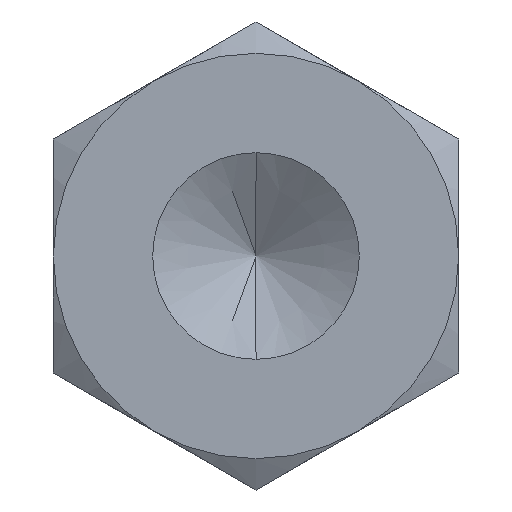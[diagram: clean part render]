
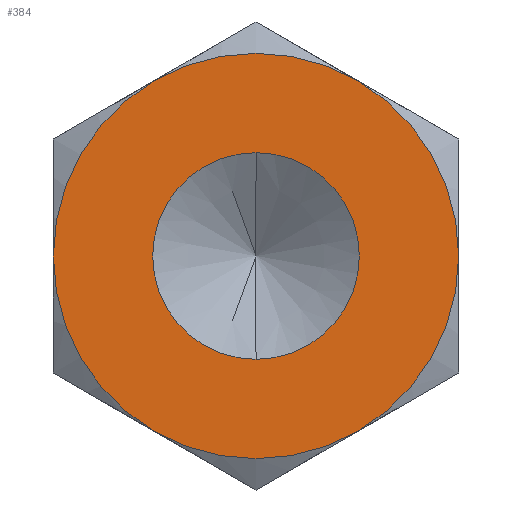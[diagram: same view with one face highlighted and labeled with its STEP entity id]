
A CAD part, front view. The second image highlights one B-rep face of the part: STEP entity #384.
In plain terms, the highlighted planar face has unit normal (0, -1, 0).
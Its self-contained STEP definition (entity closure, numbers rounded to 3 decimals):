
#4 = AXIS2_PLACEMENT_3D ( 'NONE', #733, #727, #716 ) ;
#12 = AXIS2_PLACEMENT_3D ( 'NONE', #196, #92, #117 ) ;
#23 = VERTEX_POINT ( 'NONE', #509 ) ;
#60 = CARTESIAN_POINT ( 'NONE',  ( 0., 0., -5.1 ) ) ;
#68 = ORIENTED_EDGE ( 'NONE', *, *, #197, .F. ) ;
#76 = EDGE_CURVE ( 'NONE', #136, #304, #653, .T. ) ;
#91 = AXIS2_PLACEMENT_3D ( 'NONE', #110, #113, #200 ) ;
#92 = DIRECTION ( 'NONE',  ( 0., 1., 0. ) ) ;
#96 = EDGE_CURVE ( 'NONE', #592, #489, #326, .T. ) ;
#97 = ORIENTED_EDGE ( 'NONE', *, *, #348, .T. ) ;
#99 = CARTESIAN_POINT ( 'NONE',  ( 0., 0., 0. ) ) ;
#104 = DIRECTION ( 'NONE',  ( 0., -1., 0. ) ) ;
#109 = DIRECTION ( 'NONE',  ( 1., 0., 0. ) ) ;
#110 = CARTESIAN_POINT ( 'NONE',  ( 0., 0., 0. ) ) ;
#113 = DIRECTION ( 'NONE',  ( 0., -1., 0. ) ) ;
#114 = PLANE ( 'NONE',  #12 ) ;
#117 = DIRECTION ( 'NONE',  ( 0., 0., 1. ) ) ;
#125 = CARTESIAN_POINT ( 'NONE',  ( 0., 0., 5.1 ) ) ;
#136 = VERTEX_POINT ( 'NONE', #125 ) ;
#144 = AXIS2_PLACEMENT_3D ( 'NONE', #394, #395, #404 ) ;
#160 = CIRCLE ( 'NONE', #593, 10. ) ;
#166 = CIRCLE ( 'NONE', #4, 5.1 ) ;
#172 = EDGE_LOOP ( 'NONE', ( #68, #667 ) ) ;
#189 = EDGE_CURVE ( 'NONE', #489, #23, #702, .T. ) ;
#196 = CARTESIAN_POINT ( 'NONE',  ( 0., 0., 0. ) ) ;
#197 = EDGE_CURVE ( 'NONE', #304, #136, #166, .T. ) ;
#200 = DIRECTION ( 'NONE',  ( 0., 0., 1. ) ) ;
#233 = ORIENTED_EDGE ( 'NONE', *, *, #730, .T. ) ;
#245 = CARTESIAN_POINT ( 'NONE',  ( 10., 0., 0. ) ) ;
#250 = CARTESIAN_POINT ( 'NONE',  ( 5., 0., 8.66 ) ) ;
#251 = CARTESIAN_POINT ( 'NONE',  ( -10., 0., 0. ) ) ;
#288 = CARTESIAN_POINT ( 'NONE',  ( 0., 0., 0. ) ) ;
#292 = DIRECTION ( 'NONE',  ( 0., -1., 0. ) ) ;
#293 = DIRECTION ( 'NONE',  ( 0., 0., 1. ) ) ;
#304 = VERTEX_POINT ( 'NONE', #60 ) ;
#316 = FACE_BOUND ( 'NONE', #172, .T. ) ;
#326 = CIRCLE ( 'NONE', #144, 10. ) ;
#329 = FACE_OUTER_BOUND ( 'NONE', #645, .T. ) ;
#331 = CIRCLE ( 'NONE', #784, 10. ) ;
#335 = EDGE_CURVE ( 'NONE', #499, #505, #160, .T. ) ;
#338 = CIRCLE ( 'NONE', #796, 10. ) ;
#347 = CIRCLE ( 'NONE', #91, 10. ) ;
#348 = EDGE_CURVE ( 'NONE', #505, #592, #347, .T. ) ;
#364 = CARTESIAN_POINT ( 'NONE',  ( 0., 0., 0. ) ) ;
#365 = DIRECTION ( 'NONE',  ( 0., -1., 0. ) ) ;
#368 = DIRECTION ( 'NONE',  ( 0., 0., -1. ) ) ;
#384 = ADVANCED_FACE ( 'NONE', ( #316, #329 ), #114, .F. ) ;
#394 = CARTESIAN_POINT ( 'NONE',  ( 0., 0., 0. ) ) ;
#395 = DIRECTION ( 'NONE',  ( 0., -1., 0. ) ) ;
#404 = DIRECTION ( 'NONE',  ( 0., 0., 1. ) ) ;
#449 = AXIS2_PLACEMENT_3D ( 'NONE', #557, #561, #566 ) ;
#467 = ORIENTED_EDGE ( 'NONE', *, *, #335, .T. ) ;
#472 = AXIS2_PLACEMENT_3D ( 'NONE', #364, #365, #368 ) ;
#486 = ORIENTED_EDGE ( 'NONE', *, *, #521, .T. ) ;
#489 = VERTEX_POINT ( 'NONE', #251 ) ;
#499 = VERTEX_POINT ( 'NONE', #245 ) ;
#502 = CARTESIAN_POINT ( 'NONE',  ( -5., 0., 8.66 ) ) ;
#505 = VERTEX_POINT ( 'NONE', #250 ) ;
#509 = CARTESIAN_POINT ( 'NONE',  ( -5., 0., -8.66 ) ) ;
#521 = EDGE_CURVE ( 'NONE', #23, #568, #338, .T. ) ;
#525 = ORIENTED_EDGE ( 'NONE', *, *, #189, .T. ) ;
#557 = CARTESIAN_POINT ( 'NONE',  ( 0., 0., 0. ) ) ;
#561 = DIRECTION ( 'NONE',  ( 0., -1., 0. ) ) ;
#566 = DIRECTION ( 'NONE',  ( 0., 0., 1. ) ) ;
#568 = VERTEX_POINT ( 'NONE', #599 ) ;
#592 = VERTEX_POINT ( 'NONE', #502 ) ;
#593 = AXIS2_PLACEMENT_3D ( 'NONE', #99, #104, #109 ) ;
#599 = CARTESIAN_POINT ( 'NONE',  ( 5., 0., -8.66 ) ) ;
#608 = CARTESIAN_POINT ( 'NONE',  ( 0., 0., 0. ) ) ;
#609 = DIRECTION ( 'NONE',  ( 0., -1., 0. ) ) ;
#610 = DIRECTION ( 'NONE',  ( 0., 0., 1. ) ) ;
#645 = EDGE_LOOP ( 'NONE', ( #97, #694, #525, #486, #233, #467 ) ) ;
#653 = CIRCLE ( 'NONE', #472, 5.1 ) ;
#667 = ORIENTED_EDGE ( 'NONE', *, *, #76, .F. ) ;
#694 = ORIENTED_EDGE ( 'NONE', *, *, #96, .T. ) ;
#702 = CIRCLE ( 'NONE', #449, 10. ) ;
#716 = DIRECTION ( 'NONE',  ( 0., 0., -1. ) ) ;
#727 = DIRECTION ( 'NONE',  ( 0., -1., 0. ) ) ;
#730 = EDGE_CURVE ( 'NONE', #568, #499, #331, .T. ) ;
#733 = CARTESIAN_POINT ( 'NONE',  ( 0., 0., 0. ) ) ;
#784 = AXIS2_PLACEMENT_3D ( 'NONE', #608, #609, #610 ) ;
#796 = AXIS2_PLACEMENT_3D ( 'NONE', #288, #292, #293 ) ;
